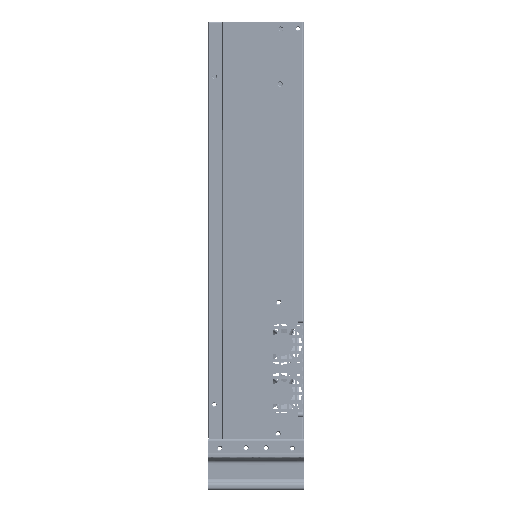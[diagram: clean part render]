
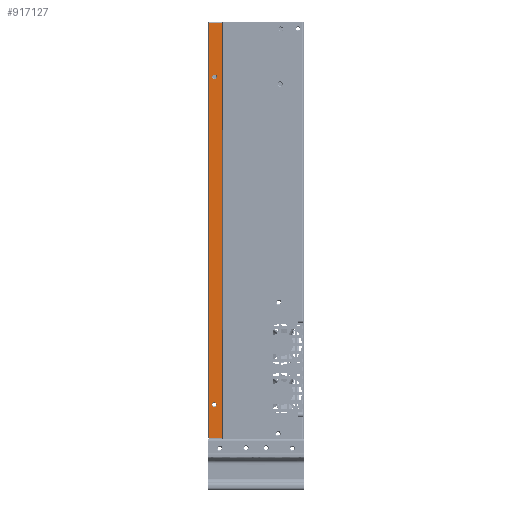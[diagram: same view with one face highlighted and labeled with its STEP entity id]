
A CAD part, left-side view. The second image highlights one B-rep face of the part: STEP entity #917127.
In plain terms, the highlighted planar face has unit normal (-1, 0, 0).
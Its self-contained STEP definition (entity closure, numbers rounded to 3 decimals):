
#31147 = VERTEX_POINT ( 'NONE', #55539 ) ;
#36048 = CARTESIAN_POINT ( 'NONE',  ( 0., 32.5, -383.8 ) ) ;
#46809 = AXIS2_PLACEMENT_3D ( 'NONE', #178970, #250239, #184400 ) ;
#55539 = CARTESIAN_POINT ( 'NONE',  ( 0., 39.116, -48.411 ) ) ;
#84548 = DIRECTION ( 'NONE',  ( 0., 1., 0. ) ) ;
#89791 = ORIENTED_EDGE ( 'NONE', *, *, #776408, .F. ) ;
#95226 = CARTESIAN_POINT ( 'NONE',  ( 0., 43.875, -383.8 ) ) ;
#100899 = AXIS2_PLACEMENT_3D ( 'NONE', #747262, #332889, #348980 ) ;
#104507 = ORIENTED_EDGE ( 'NONE', *, *, #293964, .F. ) ;
#140101 = ORIENTED_EDGE ( 'NONE', *, *, #611783, .F. ) ;
#149202 = CARTESIAN_POINT ( 'NONE',  ( 0., 44.2, -1. ) ) ;
#149560 = PLANE ( 'NONE',  #962138 ) ;
#157458 = EDGE_CURVE ( 'NONE', #584867, #667386, #239680, .T. ) ;
#159509 = DIRECTION ( 'NONE',  ( -1., 0., 0. ) ) ;
#161574 = AXIS2_PLACEMENT_3D ( 'NONE', #933231, #247882, #662275 ) ;
#169021 = EDGE_CURVE ( 'NONE', #631004, #342341, #379181, .T. ) ;
#176227 = ORIENTED_EDGE ( 'NONE', *, *, #340523, .F. ) ;
#178970 = CARTESIAN_POINT ( 'NONE',  ( 0., 44., -1. ) ) ;
#184400 = DIRECTION ( 'NONE',  ( 0., 0.707, 0.707 ) ) ;
#193849 = FACE_BOUND ( 'NONE', #493270, .T. ) ;
#198951 = VECTOR ( 'NONE', #784973, 1000. ) ;
#202558 = EDGE_CURVE ( 'NONE', #314137, #584867, #357533, .T. ) ;
#231429 = CARTESIAN_POINT ( 'NONE',  ( 0., 39.48, -352.603 ) ) ;
#239680 = CIRCLE ( 'NONE', #46809, 0.2 ) ;
#247882 = DIRECTION ( 'NONE',  ( -1., 0., 0. ) ) ;
#250239 = DIRECTION ( 'NONE',  ( 1., 0., 0. ) ) ;
#265041 = DIRECTION ( 'NONE',  ( 0., 0., 1. ) ) ;
#281057 = FACE_OUTER_BOUND ( 'NONE', #878595, .T. ) ;
#293964 = EDGE_CURVE ( 'NONE', #926675, #594498, #392072, .T. ) ;
#314137 = VERTEX_POINT ( 'NONE', #1065600 ) ;
#330282 = LINE ( 'NONE', #95226, #612708 ) ;
#332889 = DIRECTION ( 'NONE',  ( -1., 0., 0. ) ) ;
#340523 = EDGE_CURVE ( 'NONE', #31147, #1070935, #979790, .T. ) ;
#342341 = VERTEX_POINT ( 'NONE', #579959 ) ;
#348980 = DIRECTION ( 'NONE',  ( 0., 0., -1. ) ) ;
#354752 = CIRCLE ( 'NONE', #789858, 2.171 ) ;
#355958 = VECTOR ( 'NONE', #1055452, 1000. ) ;
#357533 = LINE ( 'NONE', #428735, #367044 ) ;
#362867 = FACE_BOUND ( 'NONE', #898827, .T. ) ;
#367044 = VECTOR ( 'NONE', #265041, 1000. ) ;
#379181 = CIRCLE ( 'NONE', #100899, 2.171 ) ;
#384657 = CARTESIAN_POINT ( 'NONE',  ( 0., 32.5, -0.8 ) ) ;
#392072 = LINE ( 'NONE', #964733, #198951 ) ;
#412478 = EDGE_CURVE ( 'NONE', #667386, #926675, #962944, .T. ) ;
#428735 = CARTESIAN_POINT ( 'NONE',  ( 0., 44.2, -292. ) ) ;
#482303 = DIRECTION ( 'NONE',  ( 0., 0., 1. ) ) ;
#493270 = EDGE_LOOP ( 'NONE', ( #810261, #140101 ) ) ;
#527539 = ORIENTED_EDGE ( 'NONE', *, *, #157458, .F. ) ;
#558695 = DIRECTION ( 'NONE',  ( -1., 0., 0. ) ) ;
#568613 = DIRECTION ( 'NONE',  ( 0., 0., -1. ) ) ;
#579959 = CARTESIAN_POINT ( 'NONE',  ( 0., 39.48, -350.432 ) ) ;
#584867 = VERTEX_POINT ( 'NONE', #149202 ) ;
#590246 = ORIENTED_EDGE ( 'NONE', *, *, #936644, .F. ) ;
#594498 = VERTEX_POINT ( 'NONE', #36048 ) ;
#611783 = EDGE_CURVE ( 'NONE', #342341, #631004, #937174, .T. ) ;
#612708 = VECTOR ( 'NONE', #84548, 1000. ) ;
#631004 = VERTEX_POINT ( 'NONE', #766113 ) ;
#645962 = CARTESIAN_POINT ( 'NONE',  ( 0., 44., -384. ) ) ;
#662275 = DIRECTION ( 'NONE',  ( 0., 0., -1. ) ) ;
#667386 = VERTEX_POINT ( 'NONE', #1004071 ) ;
#722901 = CARTESIAN_POINT ( 'NONE',  ( 0., 44., -0.8 ) ) ;
#726892 = CARTESIAN_POINT ( 'NONE',  ( 0., 39.116, -50.582 ) ) ;
#747262 = CARTESIAN_POINT ( 'NONE',  ( 0., 39.48, -352.603 ) ) ;
#764395 = ORIENTED_EDGE ( 'NONE', *, *, #202558, .F. ) ;
#766113 = CARTESIAN_POINT ( 'NONE',  ( 0., 39.48, -354.774 ) ) ;
#776408 = EDGE_CURVE ( 'NONE', #594498, #314137, #330282, .T. ) ;
#784973 = DIRECTION ( 'NONE',  ( 0., 0., -1. ) ) ;
#789858 = AXIS2_PLACEMENT_3D ( 'NONE', #726892, #159509, #568613 ) ;
#810261 = ORIENTED_EDGE ( 'NONE', *, *, #169021, .F. ) ;
#820990 = CARTESIAN_POINT ( 'NONE',  ( 0., 39.116, -52.752 ) ) ;
#878595 = EDGE_LOOP ( 'NONE', ( #976010, #527539, #764395, #89791, #104507 ) ) ;
#880563 = DIRECTION ( 'NONE',  ( 0., 0., -1. ) ) ;
#898827 = EDGE_LOOP ( 'NONE', ( #590246, #176227 ) ) ;
#917127 = ADVANCED_FACE ( 'NONE', ( #193849, #362867, #281057 ), #149560, .T. ) ;
#926675 = VERTEX_POINT ( 'NONE', #384657 ) ;
#933231 = CARTESIAN_POINT ( 'NONE',  ( 0., 39.116, -50.582 ) ) ;
#936644 = EDGE_CURVE ( 'NONE', #1070935, #31147, #354752, .T. ) ;
#937174 = CIRCLE ( 'NONE', #1024267, 2.171 ) ;
#962138 = AXIS2_PLACEMENT_3D ( 'NONE', #645962, #558695, #482303 ) ;
#962231 = DIRECTION ( 'NONE',  ( -1., 0., 0. ) ) ;
#962944 = LINE ( 'NONE', #722901, #355958 ) ;
#964733 = CARTESIAN_POINT ( 'NONE',  ( 0., 32.5, -292. ) ) ;
#976010 = ORIENTED_EDGE ( 'NONE', *, *, #412478, .F. ) ;
#979790 = CIRCLE ( 'NONE', #161574, 2.171 ) ;
#1004071 = CARTESIAN_POINT ( 'NONE',  ( 0., 44., -0.8 ) ) ;
#1024267 = AXIS2_PLACEMENT_3D ( 'NONE', #231429, #962231, #880563 ) ;
#1055452 = DIRECTION ( 'NONE',  ( 0., -1., 0. ) ) ;
#1065600 = CARTESIAN_POINT ( 'NONE',  ( 0., 44.2, -383.8 ) ) ;
#1070935 = VERTEX_POINT ( 'NONE', #820990 ) ;
